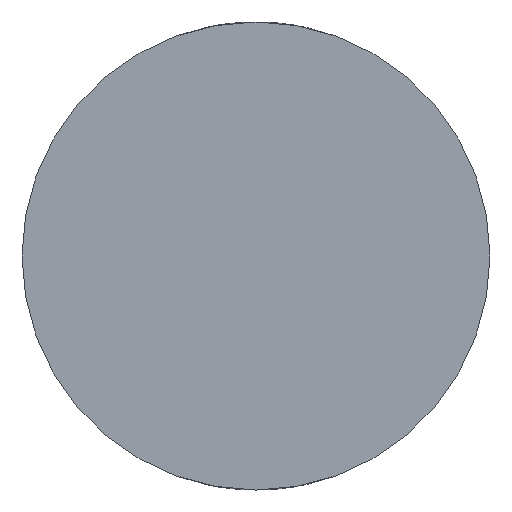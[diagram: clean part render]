
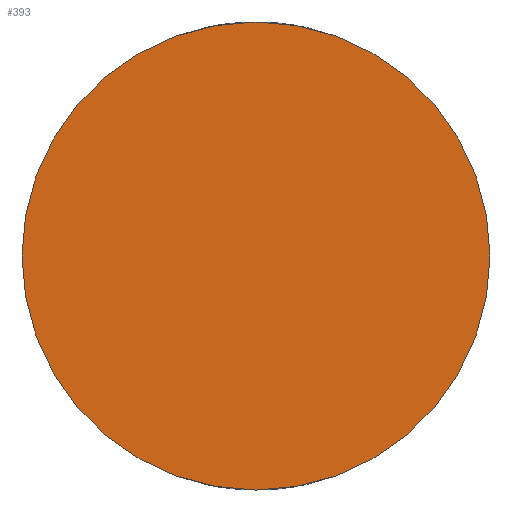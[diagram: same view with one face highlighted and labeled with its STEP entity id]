
A CAD part, front view. The second image highlights one B-rep face of the part: STEP entity #393.
In plain terms, the highlighted planar face has unit normal (0, -1, 0).
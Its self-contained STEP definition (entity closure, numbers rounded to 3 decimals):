
#8 = AXIS2_PLACEMENT_3D ( 'NONE', #522, #112, #210 ) ;
#71 = CIRCLE ( 'NONE', #244, 11.6 ) ;
#82 = DIRECTION ( 'NONE',  ( 0., 0., 1. ) ) ;
#101 = EDGE_CURVE ( 'NONE', #349, #386, #195, .T. ) ;
#109 = CARTESIAN_POINT ( 'NONE',  ( 0., 0., 11.6 ) ) ;
#112 = DIRECTION ( 'NONE',  ( 0., 1., 0. ) ) ;
#195 = CIRCLE ( 'NONE', #316, 11.6 ) ;
#210 = DIRECTION ( 'NONE',  ( 0., 0., 1. ) ) ;
#219 = CARTESIAN_POINT ( 'NONE',  ( 0., 0., 0. ) ) ;
#244 = AXIS2_PLACEMENT_3D ( 'NONE', #519, #570, #287 ) ;
#287 = DIRECTION ( 'NONE',  ( 0., 0., 1. ) ) ;
#316 = AXIS2_PLACEMENT_3D ( 'NONE', #219, #578, #82 ) ;
#332 = FACE_OUTER_BOUND ( 'NONE', #389, .T. ) ;
#349 = VERTEX_POINT ( 'NONE', #462 ) ;
#383 = PLANE ( 'NONE',  #8 ) ;
#386 = VERTEX_POINT ( 'NONE', #109 ) ;
#389 = EDGE_LOOP ( 'NONE', ( #475, #438 ) ) ;
#393 = ADVANCED_FACE ( 'NONE', ( #332 ), #383, .F. ) ;
#415 = EDGE_CURVE ( 'NONE', #386, #349, #71, .T. ) ;
#438 = ORIENTED_EDGE ( 'NONE', *, *, #415, .F. ) ;
#462 = CARTESIAN_POINT ( 'NONE',  ( 0., 0., -11.6 ) ) ;
#475 = ORIENTED_EDGE ( 'NONE', *, *, #101, .F. ) ;
#519 = CARTESIAN_POINT ( 'NONE',  ( 0., 0., 0. ) ) ;
#522 = CARTESIAN_POINT ( 'NONE',  ( 0., 0., 0. ) ) ;
#570 = DIRECTION ( 'NONE',  ( 0., 1., 0. ) ) ;
#578 = DIRECTION ( 'NONE',  ( 0., 1., 0. ) ) ;
